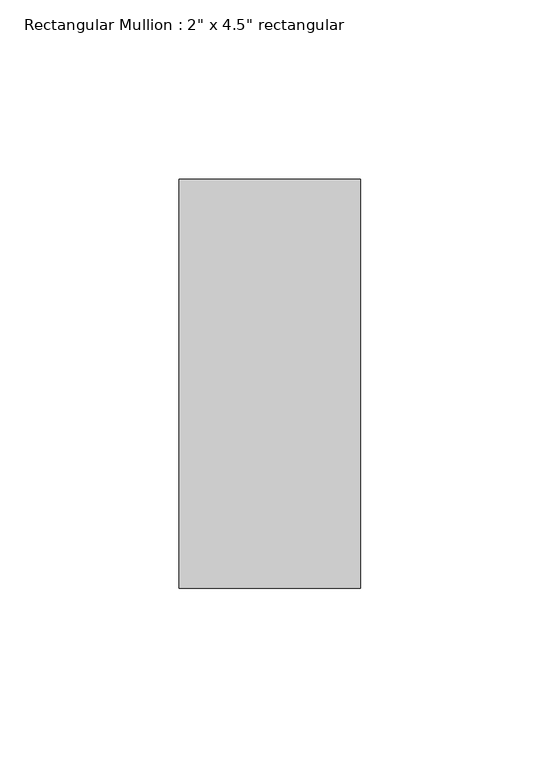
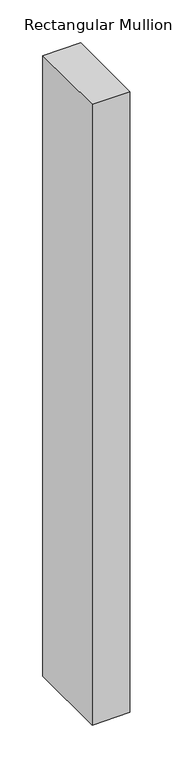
"""IFC4 building model written with IfcOpenShell, lengths in millimetres: member geometry."""

from ifc_helpers import new_model, si_unit, frame, origin, place, context, project, spatial, polyline, outline, extrude, source, transform, mapped, element, save


def member_d5560c68(model_context):
    return source(origin(), model_context, "Body", "SweptSolid", [
        extrude(outline(polyline([(0.0, 57.15), (0.0, -57.15), (-50.8, -57.15), (-50.8, 57.15), (0.0, 57.15)])), frame((0.0, 0.0, -881.1249909), z_axis=(0.0, 0.0, 1.0), x_axis=(1.0, 0.0, 0.0)), (0.0, 0.0, 1.0), 881.1249909),
    ])


if __name__ == "__main__":
    model = new_model("IFC4")
    model_context = context("Model", 3, world=origin())
    ifc_project = project(units=[si_unit("LENGTHUNIT", "METRE", prefix="MILLI")], contexts=[model_context])
    site = spatial("IfcSite", under=ifc_project)
    building = spatial("IfcBuilding", under=site)
    placement = place(None, origin())
    member_shape = member_d5560c68(model_context)
    element("IfcMember", 1, ObjectType="Rectangular Mullion : 2\" x 4.5\" rectangular", at=placement, inside=building, context=model_context, shape_type="MappedRepresentation", body=[
        mapped(member_shape, transform((0.0, 0.0, 0.0), x_axis=(1.0, 0.0, 0.0), y_axis=(0.0, 1.0, 0.0), z_axis=(0.0, 0.0, 1.0))),
    ])
    save(model, "model.ifc")
